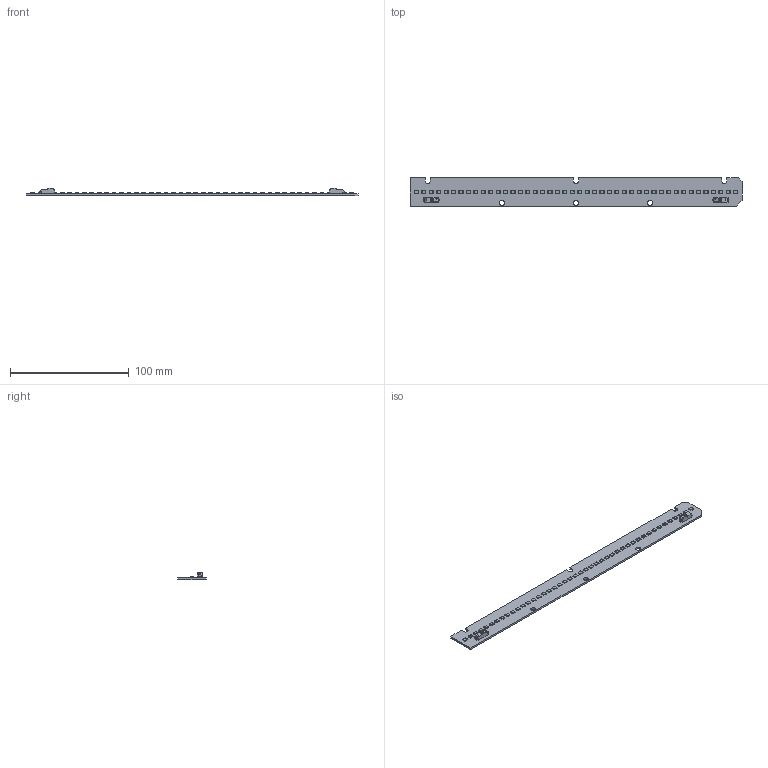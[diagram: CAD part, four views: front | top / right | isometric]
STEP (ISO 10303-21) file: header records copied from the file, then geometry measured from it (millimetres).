
FILE_DESCRIPTION (( 'STEP AP203' ), '1' );
FILE_NAME ('led_module LX282.STEP', '2017-10-20T09:48:28', ( '' ), ( '' ), 'SwSTEP 2.0', 'SolidWorks 2014', '' );
FILE_SCHEMA (( 'CONFIG_CONTROL_DESIGN' ));
Length unit declared in the file: millimetre
Products named in the file (4): LM28xB Series_zippi_pieni; led_module LX282; 7800175; 75746A
Assembly tree (47 placements, depth 2):
  led_module LX282
    75746A
    7800175  x2
    LM28xB Series_zippi_pieni  x44
Bounding box: 280 x 24 x 5.95 mm (x, y, z)
Volume: 11108.1 mm3; surface area: 16099.2 mm2
Topology: 47 solids, 47 shells, 2644 faces, 7760 edges, 5260 vertices
Faces by surface type: plane 1783, cylinder 859, bspline 2
Entity records: 7880 total; most frequent: CARTESIAN_POINT 1504, ORIENTED_EDGE 1028, DIRECTION 952, EDGE_CURVE 514, LINE 352, VECTOR 352, VERTEX_POINT 344, AXIS2_PLACEMENT_3D 300
